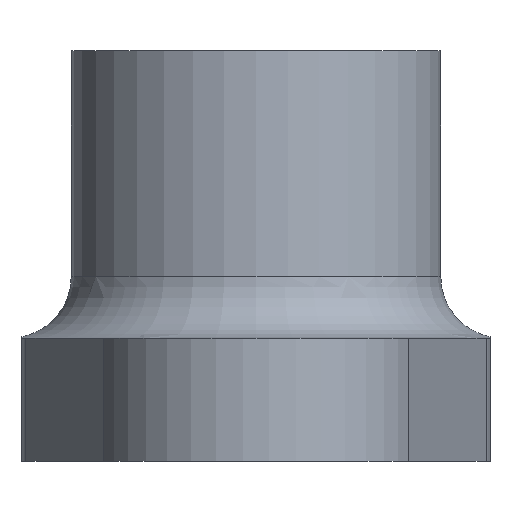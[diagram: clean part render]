
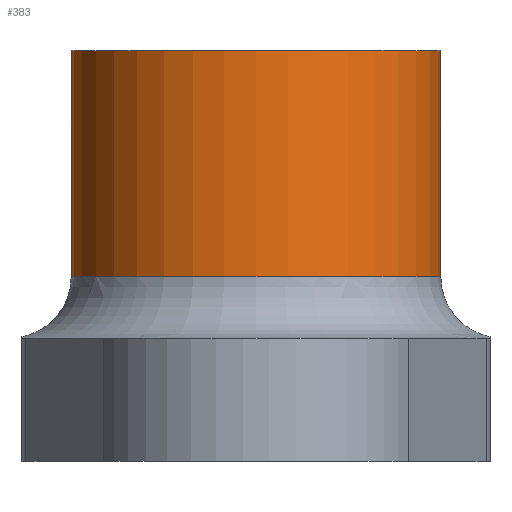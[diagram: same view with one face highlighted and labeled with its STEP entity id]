
A CAD part, left-side view. The second image highlights one B-rep face of the part: STEP entity #383.
In plain terms, the highlighted cylindrical face has radius 4.5 mm (diameter 9 mm), a full revolution.
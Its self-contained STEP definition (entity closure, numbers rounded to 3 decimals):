
#15=CYLINDRICAL_SURFACE('',#427,4.5);
#35=LINE('',#637,#65);
#65=VECTOR('',#493,4.5);
#103=FACE_OUTER_BOUND('',#125,.T.);
#125=EDGE_LOOP('',(#285,#286,#287,#288));
#151=CIRCLE('',#419,4.5);
#158=CIRCLE('',#428,4.5);
#178=VERTEX_POINT('',#600);
#188=VERTEX_POINT('',#635);
#215=EDGE_CURVE('',#178,#178,#151,.T.);
#227=EDGE_CURVE('',#188,#188,#158,.T.);
#228=EDGE_CURVE('',#188,#178,#35,.T.);
#285=ORIENTED_EDGE('',*,*,#227,.F.);
#286=ORIENTED_EDGE('',*,*,#228,.T.);
#287=ORIENTED_EDGE('',*,*,#215,.F.);
#288=ORIENTED_EDGE('',*,*,#228,.F.);
#383=ADVANCED_FACE('',(#103),#15,.T.);
#419=AXIS2_PLACEMENT_3D('',#602,#469,#470);
#427=AXIS2_PLACEMENT_3D('',#634,#489,#490);
#428=AXIS2_PLACEMENT_3D('',#636,#491,#492);
#469=DIRECTION('center_axis',(0.,0.,-1.));
#470=DIRECTION('ref_axis',(1.,0.,0.));
#489=DIRECTION('center_axis',(0.,0.,1.));
#490=DIRECTION('ref_axis',(1.,0.,0.));
#491=DIRECTION('center_axis',(0.,0.,1.));
#492=DIRECTION('ref_axis',(1.,0.,0.));
#493=DIRECTION('',(0.,0.,-1.));
#600=CARTESIAN_POINT('',(-4.5,0.,4.5));
#602=CARTESIAN_POINT('Origin',(0.,0.,4.5));
#634=CARTESIAN_POINT('Origin',(0.,0.,0.));
#635=CARTESIAN_POINT('',(-4.5,0.,10.));
#636=CARTESIAN_POINT('Origin',(0.,0.,10.));
#637=CARTESIAN_POINT('',(-4.5,0.,0.));
